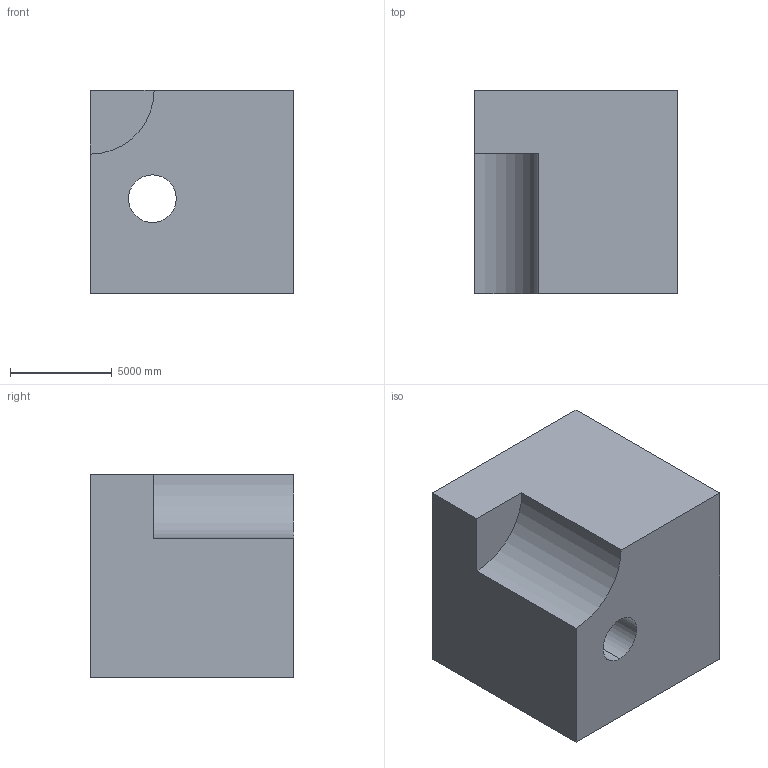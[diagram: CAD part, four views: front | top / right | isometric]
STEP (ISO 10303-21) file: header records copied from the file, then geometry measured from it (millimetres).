
FILE_DESCRIPTION (( 'STEP AP203' ), '1' );
FILE_NAME ('195.STEP', '2022-07-28T13:52:11', ( 'user' ), ( '' ), 'SwSTEP 2.0', 'SolidWorks 2021', '' );
FILE_SCHEMA (( 'CONFIG_CONTROL_DESIGN' ));
Length unit declared in the file: centimetre
Products named in the file (1): 195
Bounding box: 10000 x 10000 x 10000 mm (x, y, z)
Volume: 903426036898.8 mm3; surface area: 655791204.5 mm2
Topology: 1 solids, 1 shells, 10 faces, 24 edges, 16 vertices
Faces by surface type: plane 7, cylinder 3
Entity records: 375 total; most frequent: DIRECTION 52, CARTESIAN_POINT 51, ORIENTED_EDGE 48, EDGE_CURVE 24, LINE 18, VECTOR 18, AXIS2_PLACEMENT_3D 17, VERTEX_POINT 16
